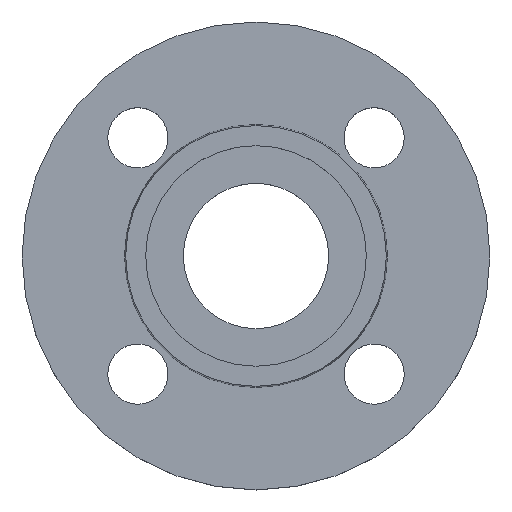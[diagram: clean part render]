
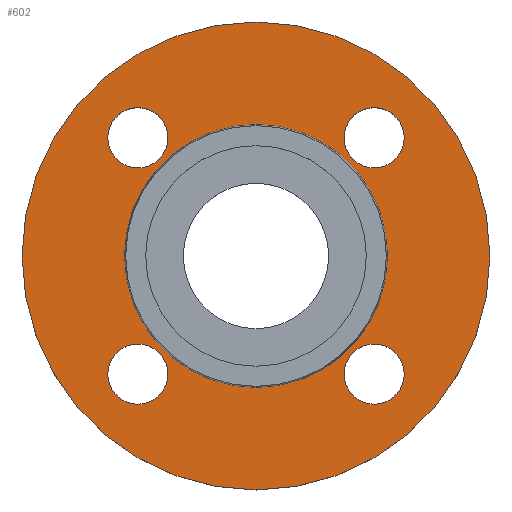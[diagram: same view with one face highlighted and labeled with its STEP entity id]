
A CAD part, top view. The second image highlights one B-rep face of the part: STEP entity #602.
In plain terms, the highlighted planar face has unit normal (0, 0, 1).
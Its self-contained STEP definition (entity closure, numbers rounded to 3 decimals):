
#8 = EDGE_CURVE ( 'NONE', #573, #479, #324, .T. ) ;
#15 = AXIS2_PLACEMENT_3D ( 'NONE', #654, #197, #398 ) ;
#18 = VERTEX_POINT ( 'NONE', #32 ) ;
#21 = CARTESIAN_POINT ( 'NONE',  ( 39.353, 0., -2. ) ) ;
#22 = CARTESIAN_POINT ( 'NONE',  ( 0., 0., -2. ) ) ;
#30 = DIRECTION ( 'NONE',  ( 1., 0., 0. ) ) ;
#31 = EDGE_CURVE ( 'NONE', #104, #18, #372, .T. ) ;
#32 = CARTESIAN_POINT ( 'NONE',  ( 70., 0., -2. ) ) ;
#34 = FACE_BOUND ( 'NONE', #667, .T. ) ;
#37 = CARTESIAN_POINT ( 'NONE',  ( -35.355, -35.355, -2. ) ) ;
#52 = CARTESIAN_POINT ( 'NONE',  ( 35.355, 35.355, -2. ) ) ;
#54 = EDGE_LOOP ( 'NONE', ( #505, #256 ) ) ;
#59 = DIRECTION ( 'NONE',  ( -1., 0., 0. ) ) ;
#81 = AXIS2_PLACEMENT_3D ( 'NONE', #189, #391, #601 ) ;
#82 = FACE_BOUND ( 'NONE', #54, .T. ) ;
#89 = EDGE_LOOP ( 'NONE', ( #414, #333 ) ) ;
#103 = VERTEX_POINT ( 'NONE', #21 ) ;
#104 = VERTEX_POINT ( 'NONE', #232 ) ;
#105 = CIRCLE ( 'NONE', #486, 39.353 ) ;
#115 = DIRECTION ( 'NONE',  ( 0., 0., -1. ) ) ;
#126 = DIRECTION ( 'NONE',  ( 1., 0., 0. ) ) ;
#129 = CARTESIAN_POINT ( 'NONE',  ( 26.355, 35.355, -2. ) ) ;
#142 = EDGE_CURVE ( 'NONE', #18, #104, #404, .T. ) ;
#147 = CARTESIAN_POINT ( 'NONE',  ( 0., 0., -2. ) ) ;
#150 = CARTESIAN_POINT ( 'NONE',  ( -35.355, 35.355, -2. ) ) ;
#161 = CIRCLE ( 'NONE', #543, 9. ) ;
#178 = VERTEX_POINT ( 'NONE', #447 ) ;
#179 = EDGE_LOOP ( 'NONE', ( #542, #195 ) ) ;
#184 = CARTESIAN_POINT ( 'NONE',  ( -26.355, -35.355, -2. ) ) ;
#186 = CARTESIAN_POINT ( 'NONE',  ( -35.355, 35.355, -2. ) ) ;
#188 = CARTESIAN_POINT ( 'NONE',  ( 26.355, -35.355, -2. ) ) ;
#189 = CARTESIAN_POINT ( 'NONE',  ( 0., 0., -2. ) ) ;
#192 = DIRECTION ( 'NONE',  ( 0., 0., 1. ) ) ;
#195 = ORIENTED_EDGE ( 'NONE', *, *, #8, .T. ) ;
#196 = CIRCLE ( 'NONE', #577, 9. ) ;
#197 = DIRECTION ( 'NONE',  ( 0., 0., -1. ) ) ;
#201 = VERTEX_POINT ( 'NONE', #297 ) ;
#203 = AXIS2_PLACEMENT_3D ( 'NONE', #322, #529, #59 ) ;
#217 = CIRCLE ( 'NONE', #596, 9. ) ;
#225 = CIRCLE ( 'NONE', #605, 9. ) ;
#232 = CARTESIAN_POINT ( 'NONE',  ( -70., 0., -2. ) ) ;
#233 = EDGE_CURVE ( 'NONE', #522, #411, #225, .T. ) ;
#234 = DIRECTION ( 'NONE',  ( 0., 0., -1. ) ) ;
#243 = FACE_OUTER_BOUND ( 'NONE', #363, .T. ) ;
#244 = EDGE_CURVE ( 'NONE', #178, #569, #312, .T. ) ;
#245 = DIRECTION ( 'NONE',  ( 0., 0., -1. ) ) ;
#246 = AXIS2_PLACEMENT_3D ( 'NONE', #147, #356, #567 ) ;
#256 = ORIENTED_EDGE ( 'NONE', *, *, #560, .T. ) ;
#265 = ORIENTED_EDGE ( 'NONE', *, *, #142, .F. ) ;
#289 = CARTESIAN_POINT ( 'NONE',  ( -35.355, -35.355, -2. ) ) ;
#294 = FACE_BOUND ( 'NONE', #179, .T. ) ;
#297 = CARTESIAN_POINT ( 'NONE',  ( -39.353, 0., -2. ) ) ;
#311 = ORIENTED_EDGE ( 'NONE', *, *, #485, .T. ) ;
#312 = CIRCLE ( 'NONE', #15, 9. ) ;
#319 = EDGE_CURVE ( 'NONE', #201, #103, #541, .T. ) ;
#322 = CARTESIAN_POINT ( 'NONE',  ( 0., 0., -2. ) ) ;
#324 = CIRCLE ( 'NONE', #405, 9. ) ;
#325 = AXIS2_PLACEMENT_3D ( 'NONE', #52, #418, #628 ) ;
#326 = DIRECTION ( 'NONE',  ( 1., 0., 0. ) ) ;
#331 = EDGE_CURVE ( 'NONE', #479, #573, #415, .T. ) ;
#333 = ORIENTED_EDGE ( 'NONE', *, *, #392, .T. ) ;
#339 = AXIS2_PLACEMENT_3D ( 'NONE', #652, #192, #394 ) ;
#356 = DIRECTION ( 'NONE',  ( 0., 0., -1. ) ) ;
#359 = DIRECTION ( 'NONE',  ( 0., 0., -1. ) ) ;
#363 = EDGE_LOOP ( 'NONE', ( #265, #576 ) ) ;
#372 = CIRCLE ( 'NONE', #81, 70. ) ;
#385 = CARTESIAN_POINT ( 'NONE',  ( 35.355, -35.355, -2. ) ) ;
#388 = DIRECTION ( 'NONE',  ( 0., 0., -1. ) ) ;
#390 = CARTESIAN_POINT ( 'NONE',  ( -44.355, 35.355, -2. ) ) ;
#391 = DIRECTION ( 'NONE',  ( 0., 0., -1. ) ) ;
#392 = EDGE_CURVE ( 'NONE', #537, #528, #616, .T. ) ;
#394 = DIRECTION ( 'NONE',  ( 1., 0., 0. ) ) ;
#398 = DIRECTION ( 'NONE',  ( 1., 0., 0. ) ) ;
#404 = CIRCLE ( 'NONE', #203, 70. ) ;
#405 = AXIS2_PLACEMENT_3D ( 'NONE', #186, #388, #598 ) ;
#411 = VERTEX_POINT ( 'NONE', #475 ) ;
#412 = ORIENTED_EDGE ( 'NONE', *, *, #478, .T. ) ;
#414 = ORIENTED_EDGE ( 'NONE', *, *, #633, .T. ) ;
#415 = CIRCLE ( 'NONE', #506, 9. ) ;
#418 = DIRECTION ( 'NONE',  ( 0., 0., -1. ) ) ;
#438 = DIRECTION ( 'NONE',  ( -1., 0., 0. ) ) ;
#447 = CARTESIAN_POINT ( 'NONE',  ( 44.355, -35.355, -2. ) ) ;
#448 = PLANE ( 'NONE',  #339 ) ;
#451 = DIRECTION ( 'NONE',  ( 1., 0., 0. ) ) ;
#475 = CARTESIAN_POINT ( 'NONE',  ( -44.355, -35.355, -2. ) ) ;
#478 = EDGE_CURVE ( 'NONE', #103, #201, #105, .T. ) ;
#479 = VERTEX_POINT ( 'NONE', #643 ) ;
#485 = EDGE_CURVE ( 'NONE', #569, #178, #196, .T. ) ;
#486 = AXIS2_PLACEMENT_3D ( 'NONE', #22, #234, #438 ) ;
#495 = DIRECTION ( 'NONE',  ( 0., 0., -1. ) ) ;
#500 = FACE_BOUND ( 'NONE', #89, .T. ) ;
#505 = ORIENTED_EDGE ( 'NONE', *, *, #233, .T. ) ;
#506 = AXIS2_PLACEMENT_3D ( 'NONE', #150, #359, #571 ) ;
#518 = ORIENTED_EDGE ( 'NONE', *, *, #244, .T. ) ;
#522 = VERTEX_POINT ( 'NONE', #184 ) ;
#528 = VERTEX_POINT ( 'NONE', #597 ) ;
#529 = DIRECTION ( 'NONE',  ( 0., 0., -1. ) ) ;
#537 = VERTEX_POINT ( 'NONE', #129 ) ;
#541 = CIRCLE ( 'NONE', #246, 39.353 ) ;
#542 = ORIENTED_EDGE ( 'NONE', *, *, #331, .T. ) ;
#543 = AXIS2_PLACEMENT_3D ( 'NONE', #289, #495, #30 ) ;
#554 = FACE_BOUND ( 'NONE', #592, .T. ) ;
#560 = EDGE_CURVE ( 'NONE', #411, #522, #161, .T. ) ;
#567 = DIRECTION ( 'NONE',  ( -1., 0., 0. ) ) ;
#569 = VERTEX_POINT ( 'NONE', #188 ) ;
#571 = DIRECTION ( 'NONE',  ( 1., 0., 0. ) ) ;
#573 = VERTEX_POINT ( 'NONE', #390 ) ;
#576 = ORIENTED_EDGE ( 'NONE', *, *, #31, .F. ) ;
#577 = AXIS2_PLACEMENT_3D ( 'NONE', #385, #595, #126 ) ;
#583 = CARTESIAN_POINT ( 'NONE',  ( 35.355, 35.355, -2. ) ) ;
#592 = EDGE_LOOP ( 'NONE', ( #518, #311 ) ) ;
#595 = DIRECTION ( 'NONE',  ( 0., 0., -1. ) ) ;
#596 = AXIS2_PLACEMENT_3D ( 'NONE', #583, #115, #326 ) ;
#597 = CARTESIAN_POINT ( 'NONE',  ( 44.355, 35.355, -2. ) ) ;
#598 = DIRECTION ( 'NONE',  ( 1., 0., 0. ) ) ;
#601 = DIRECTION ( 'NONE',  ( -1., 0., 0. ) ) ;
#602 = ADVANCED_FACE ( 'NONE', ( #554, #82, #294, #500, #34, #243 ), #448, .T. ) ;
#605 = AXIS2_PLACEMENT_3D ( 'NONE', #37, #245, #451 ) ;
#616 = CIRCLE ( 'NONE', #325, 9. ) ;
#617 = ORIENTED_EDGE ( 'NONE', *, *, #319, .T. ) ;
#628 = DIRECTION ( 'NONE',  ( 1., 0., 0. ) ) ;
#633 = EDGE_CURVE ( 'NONE', #528, #537, #217, .T. ) ;
#643 = CARTESIAN_POINT ( 'NONE',  ( -26.355, 35.355, -2. ) ) ;
#652 = CARTESIAN_POINT ( 'NONE',  ( 39.353, 0., -2. ) ) ;
#654 = CARTESIAN_POINT ( 'NONE',  ( 35.355, -35.355, -2. ) ) ;
#667 = EDGE_LOOP ( 'NONE', ( #617, #412 ) ) ;
